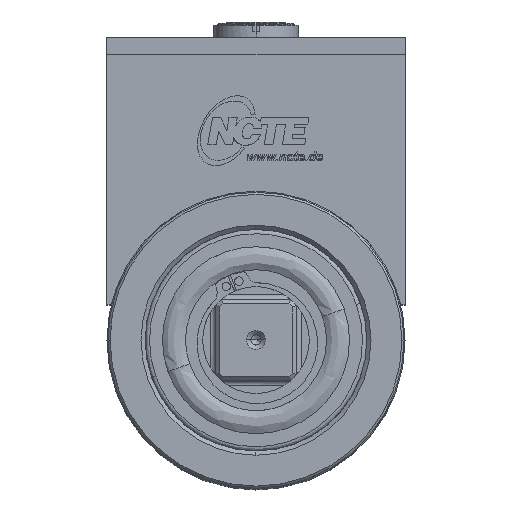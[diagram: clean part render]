
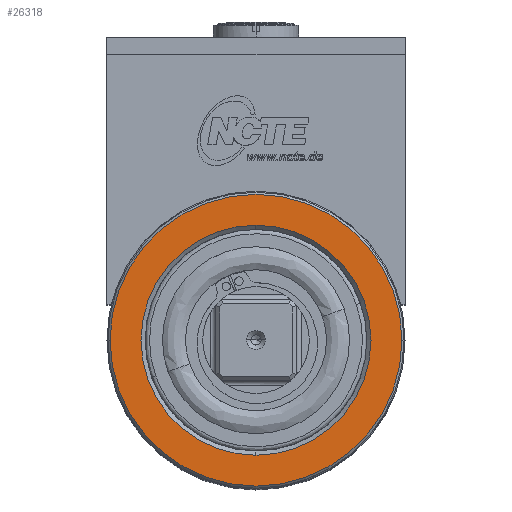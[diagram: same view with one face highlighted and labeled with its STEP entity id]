
A CAD part, top view. The second image highlights one B-rep face of the part: STEP entity #26318.
In plain terms, the highlighted planar face has unit normal (0, 0, -1).
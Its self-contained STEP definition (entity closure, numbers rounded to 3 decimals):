
#478 = DIRECTION ( 'NONE',  ( 0., -1., 0. ) ) ;
#554 = VERTEX_POINT ( 'NONE', #2325 ) ;
#1241 = CARTESIAN_POINT ( 'NONE',  ( 34.25, 0., 20. ) ) ;
#2325 = CARTESIAN_POINT ( 'NONE',  ( 0., 27., 20. ) ) ;
#2527 = DIRECTION ( 'NONE',  ( -1., 0., 0. ) ) ;
#4664 = AXIS2_PLACEMENT_3D ( 'NONE', #7547, #4795, #26706 ) ;
#4795 = DIRECTION ( 'NONE',  ( 0., 0., 1. ) ) ;
#6608 = ORIENTED_EDGE ( 'NONE', *, *, #16891, .F. ) ;
#7239 = DIRECTION ( 'NONE',  ( 0., 0., -1. ) ) ;
#7289 = CARTESIAN_POINT ( 'NONE',  ( 0., 0., 20. ) ) ;
#7442 = CIRCLE ( 'NONE', #4664, 34.25 ) ;
#7547 = CARTESIAN_POINT ( 'NONE',  ( 0., 0., 20. ) ) ;
#8144 = DIRECTION ( 'NONE',  ( 0., 0., 1. ) ) ;
#9657 = CIRCLE ( 'NONE', #22754, 34.25 ) ;
#9978 = EDGE_CURVE ( 'NONE', #18966, #27331, #9657, .T. ) ;
#10996 = ORIENTED_EDGE ( 'NONE', *, *, #9978, .F. ) ;
#13442 = CARTESIAN_POINT ( 'NONE',  ( -34.25, 0., 20. ) ) ;
#14823 = VERTEX_POINT ( 'NONE', #28538 ) ;
#14894 = FACE_BOUND ( 'NONE', #30269, .T. ) ;
#15294 = FACE_OUTER_BOUND ( 'NONE', #17563, .T. ) ;
#16620 = CIRCLE ( 'NONE', #25375, 27. ) ;
#16891 = EDGE_CURVE ( 'NONE', #554, #14823, #16620, .T. ) ;
#17563 = EDGE_LOOP ( 'NONE', ( #27279, #10996 ) ) ;
#17723 = EDGE_CURVE ( 'NONE', #27331, #18966, #7442, .T. ) ;
#18137 = AXIS2_PLACEMENT_3D ( 'NONE', #28808, #7239, #24313 ) ;
#18966 = VERTEX_POINT ( 'NONE', #1241 ) ;
#19650 = DIRECTION ( 'NONE',  ( 0., 0., -1. ) ) ;
#19761 = CARTESIAN_POINT ( 'NONE',  ( 0., 0., 20. ) ) ;
#19771 = PLANE ( 'NONE',  #21442 ) ;
#21442 = AXIS2_PLACEMENT_3D ( 'NONE', #7289, #8144, #24878 ) ;
#22754 = AXIS2_PLACEMENT_3D ( 'NONE', #31216, #29073, #2527 ) ;
#24260 = CIRCLE ( 'NONE', #18137, 27. ) ;
#24313 = DIRECTION ( 'NONE',  ( 0., -1., 0. ) ) ;
#24878 = DIRECTION ( 'NONE',  ( 1., 0., 0. ) ) ;
#25375 = AXIS2_PLACEMENT_3D ( 'NONE', #19761, #19650, #478 ) ;
#25630 = ORIENTED_EDGE ( 'NONE', *, *, #30506, .F. ) ;
#26318 = ADVANCED_FACE ( 'F', ( #14894, #15294 ), #19771, .F. ) ;
#26706 = DIRECTION ( 'NONE',  ( -1., 0., 0. ) ) ;
#27279 = ORIENTED_EDGE ( 'NONE', *, *, #17723, .F. ) ;
#27331 = VERTEX_POINT ( 'NONE', #13442 ) ;
#28538 = CARTESIAN_POINT ( 'NONE',  ( 0., -27., 20. ) ) ;
#28808 = CARTESIAN_POINT ( 'NONE',  ( 0., 0., 20. ) ) ;
#29073 = DIRECTION ( 'NONE',  ( 0., 0., 1. ) ) ;
#30269 = EDGE_LOOP ( 'NONE', ( #25630, #6608 ) ) ;
#30506 = EDGE_CURVE ( 'NONE', #14823, #554, #24260, .T. ) ;
#31216 = CARTESIAN_POINT ( 'NONE',  ( 0., 0., 20. ) ) ;
